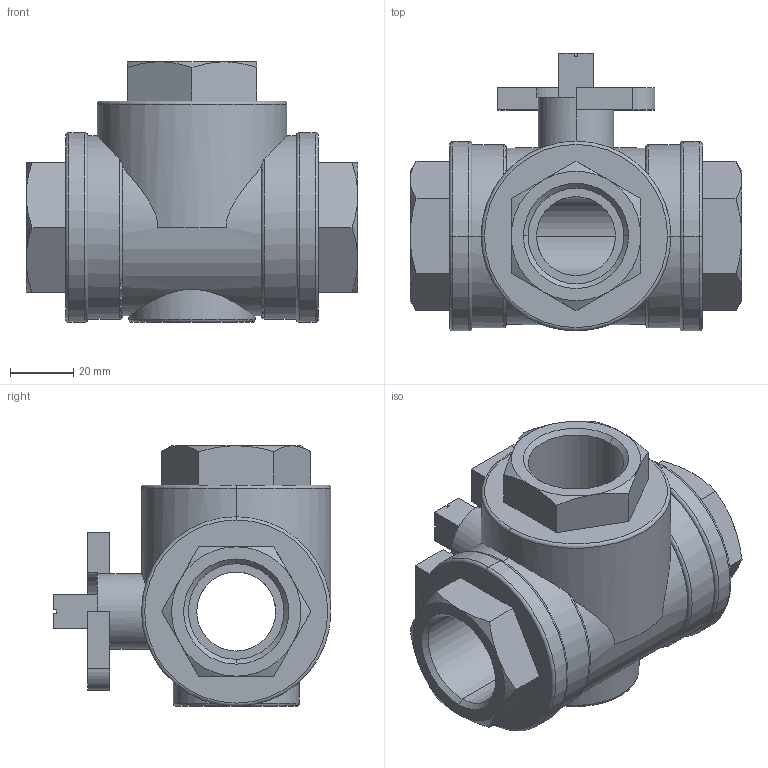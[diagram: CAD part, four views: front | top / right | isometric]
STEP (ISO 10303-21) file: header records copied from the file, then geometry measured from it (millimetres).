
FILE_DESCRIPTION (( 'STEP AP214' ), '1' );
FILE_NAME ('Ballvalve A35-DN25 G1.step', '2010-09-23T08:41:04', ( '' ), ( '' ), 'SwSTEP 2.0', 'SolidWorks 2010', '' );
FILE_SCHEMA (( 'AUTOMOTIVE_DESIGN' ));
Length unit declared in the file: millimetre
Products named in the file (1): Ballvalve A35-DN25 G1
Bounding box: 105 x 88 x 82.5 mm (x, y, z)
Volume: 240553.2 mm3; surface area: 46432.9 mm2
Topology: 1 solids, 1 shells, 126 faces, 307 edges, 189 vertices
Faces by surface type: plane 51, cylinder 36, cone 24, torus 15
Entity records: 4338 total; most frequent: CARTESIAN_POINT 1295, DIRECTION 614, ORIENTED_EDGE 614, EDGE_CURVE 307, AXIS2_PLACEMENT_3D 238, VERTEX_POINT 189, EDGE_LOOP 142, VECTOR 138
